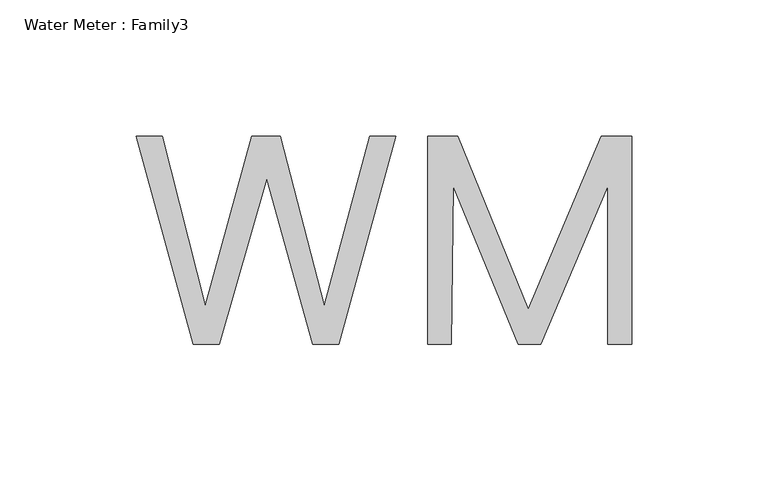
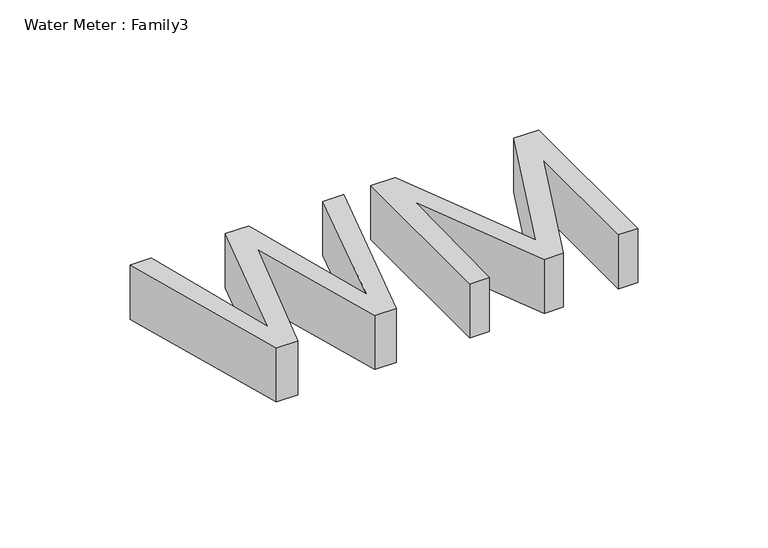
"""IFC4 building model written with IfcOpenShell, lengths in millimetres: proxy geometry, Water Meter : Family3."""

from ifc_helpers import new_model, si_unit, origin, origin_with_axes, place, context, project, spatial, polyline, outline, extrude, source, transform, mapped, element, save


def water_meter_family3_4bf23a0c(model_context):
    return source(origin(), model_context, "Body", "SweptSolid", [
        extrude(outline(polyline([(120.4830384, 85.7550829), (99.6343566, 161.9504072), (109.0231669, 161.9504072), (124.9407508, 99.8974716), (141.9037275, 161.9504072), (152.3182062, 161.9504072), (168.5513804, 99.8974716), (185.2184912, 161.9504072), (194.5875771, 161.9504072), (173.7586197, 85.7550829), (164.2317386, 85.7550829), (147.4068327, 146.4864842), (129.990195, 85.7550829), (120.4830384, 85.7550829)])), origin_with_axes(), (0.0, 0.0, 1.0), 25.4),
        extrude(outline(polyline([(206.3630388, 161.9504072), (217.3692493, 161.9504072), (243.2673753, 98.6942837), (270.0530989, 161.9504072), (281.0790337, 161.9504072), (281.0790337, 85.7550829), (272.4397502, 85.7550829), (272.4397502, 143.6461719), (247.8828829, 85.7550829), (239.5394653, 85.7550829), (215.7321248, 143.6461719), (214.9825979, 85.7550829), (206.3630388, 85.7550829), (206.3630388, 161.9504072)])), origin_with_axes(), (0.0, 0.0, 1.0), 25.4),
    ])


if __name__ == "__main__":
    model = new_model("IFC4")
    model_context = context("Model", 3, world=origin())
    ifc_project = project(units=[si_unit("LENGTHUNIT", "METRE", prefix="MILLI")], contexts=[model_context])
    site = spatial("IfcSite", under=ifc_project)
    building = spatial("IfcBuilding", under=site)
    placement = place(None, origin())
    water_meter_family3_shape = water_meter_family3_4bf23a0c(model_context)
    element("IfcBuildingElementProxy", 1, Name="Water Meter : Family3", ObjectType="Water Meter : Family3", at=placement, inside=building, context=model_context, shape_type="MappedRepresentation", body=[
        mapped(water_meter_family3_shape, transform((0.0, 0.0, 0.0), x_axis=(1.0, 0.0, 0.0), y_axis=(0.0, 1.0, 0.0), z_axis=(0.0, 0.0, 1.0))),
    ])
    save(model, "model.ifc")
